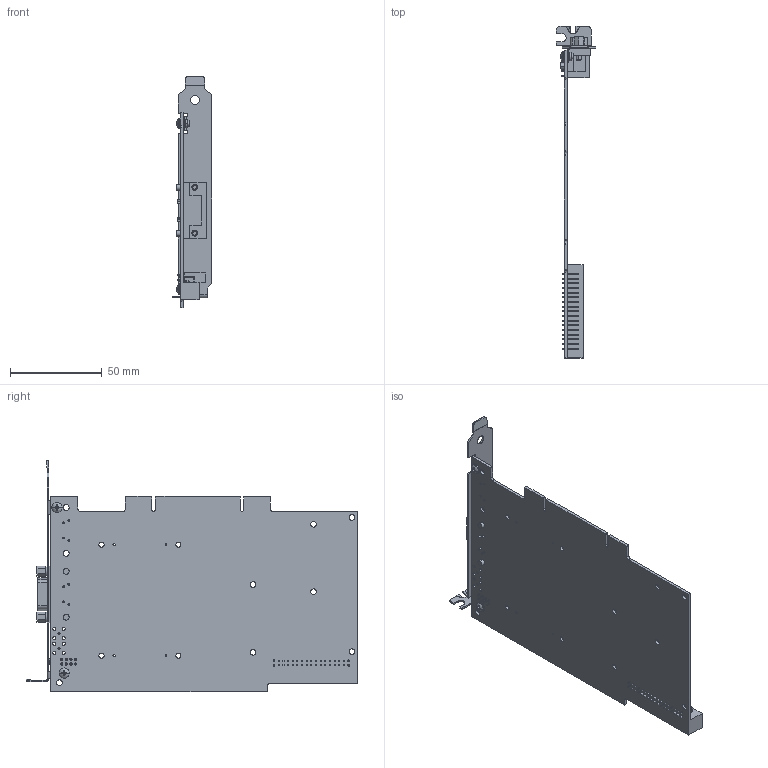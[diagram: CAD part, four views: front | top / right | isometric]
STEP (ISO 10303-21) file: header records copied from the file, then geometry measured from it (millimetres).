
FILE_DESCRIPTION((''),'2;1');
FILE_NAME('CU_PCI-8511_1','2009-02-19T',('dcrowder'),(''),'PRO/ENGINEER BY PARAMETRIC TECHNOLOGY CORPORATION, 2006080','PRO/ENGINEER BY PARAMETRIC TECHNOLOGY CORPORATION, 2006080','');
FILE_SCHEMA(('CONFIG_CONTROL_DESIGN'));
Length unit declared in the file: inch
Products named in the file (1): CU_PCI-8511_1
Bounding box: 21.59 x 180.92 x 126.37 mm (x, y, z)
Volume: 35507.9 mm3; surface area: 45397 mm2
Topology: 1 solids, 2 shells, 1232 faces, 3265 edges, 2074 vertices
Faces by surface type: plane 812, cylinder 324, bspline 60, sphere 20, torus 12, cone 4
Entity records: 39807 total; most frequent: CARTESIAN_POINT 8820, ORIENTED_EDGE 6450, DIRECTION 6181, EDGE_CURVE 3225, VECTOR 2359, LINE 2359, VERTEX_POINT 2112, AXIS2_PLACEMENT_3D 1911
